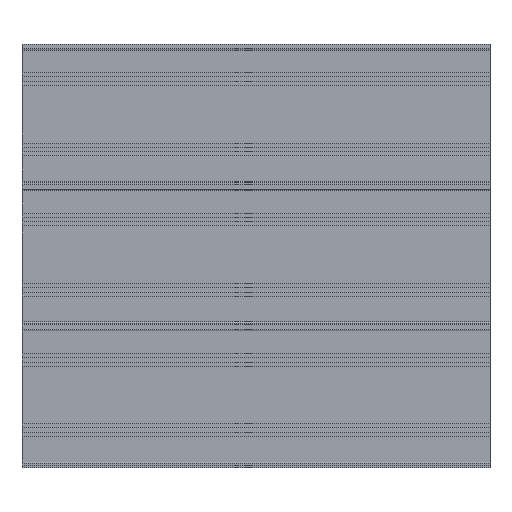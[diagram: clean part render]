
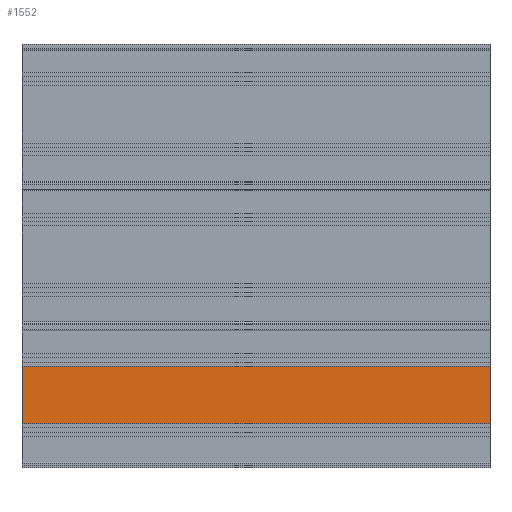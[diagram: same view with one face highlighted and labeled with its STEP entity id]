
A CAD part, front view. The second image highlights one B-rep face of the part: STEP entity #1552.
In plain terms, the highlighted planar face has unit normal (0, -1, 0).
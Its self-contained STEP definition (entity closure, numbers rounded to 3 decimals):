
#229 = VERTEX_POINT('',#230);
#230 = CARTESIAN_POINT('',(0.,16.,88.5));
#236 = EDGE_CURVE('',#229,#237,#239,.T.);
#237 = VERTEX_POINT('',#238);
#238 = CARTESIAN_POINT('',(0.,16.,211.5));
#239 = LINE('',#240,#241);
#240 = CARTESIAN_POINT('',(0.,16.,0.));
#241 = VECTOR('',#242,1.);
#242 = DIRECTION('',(0.,0.,1.));
#1511 = VERTEX_POINT('',#1512);
#1512 = CARTESIAN_POINT('',(1000.,16.,88.5));
#1518 = EDGE_CURVE('',#229,#1511,#1519,.T.);
#1519 = LINE('',#1520,#1521);
#1520 = CARTESIAN_POINT('',(0.,16.,88.5));
#1521 = VECTOR('',#1522,1.);
#1522 = DIRECTION('',(1.,0.,-0.));
#1533 = EDGE_CURVE('',#237,#1534,#1536,.T.);
#1534 = VERTEX_POINT('',#1535);
#1535 = CARTESIAN_POINT('',(1000.,16.,211.5));
#1536 = LINE('',#1537,#1538);
#1537 = CARTESIAN_POINT('',(0.,16.,211.5));
#1538 = VECTOR('',#1539,1.);
#1539 = DIRECTION('',(1.,0.,-0.));
#1552 = ADVANCED_FACE('',(#1553),#1564,.F.);
#1553 = FACE_BOUND('',#1554,.F.);
#1554 = EDGE_LOOP('',(#1555,#1561,#1562,#1563));
#1555 = ORIENTED_EDGE('',*,*,#1556,.F.);
#1556 = EDGE_CURVE('',#1511,#1534,#1557,.T.);
#1557 = LINE('',#1558,#1559);
#1558 = CARTESIAN_POINT('',(1000.,16.,0.));
#1559 = VECTOR('',#1560,1.);
#1560 = DIRECTION('',(0.,0.,1.));
#1561 = ORIENTED_EDGE('',*,*,#1518,.F.);
#1562 = ORIENTED_EDGE('',*,*,#236,.T.);
#1563 = ORIENTED_EDGE('',*,*,#1533,.T.);
#1564 = PLANE('',#1565);
#1565 = AXIS2_PLACEMENT_3D('',#1566,#1567,#1568);
#1566 = CARTESIAN_POINT('',(0.,16.,0.));
#1567 = DIRECTION('',(-0.,1.,0.));
#1568 = DIRECTION('',(0.,0.,1.));
